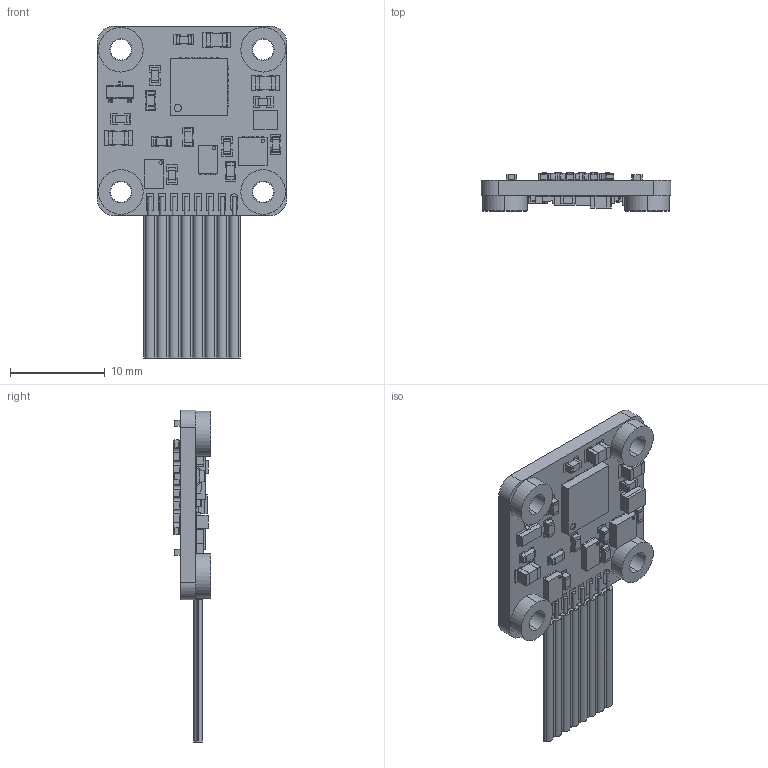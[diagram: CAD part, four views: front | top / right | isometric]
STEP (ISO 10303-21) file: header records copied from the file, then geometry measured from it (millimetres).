
FILE_DESCRIPTION (( 'STEP AP214' ), '1' );
FILE_NAME ('010482-EP210-220A_Bloc_422-SE.STEP', '2019-11-05T16:39:21', ( '' ), ( '' ), 'SwSTEP 2.0', 'SolidWorks 2018', '' );
FILE_SCHEMA (( 'AUTOMOTIVE_DESIGN' ));
Length unit declared in the file: millimetre
Products named in the file (21): QFN28_6x6_065_D‚faut; c0805_HYPAD_D‚faut; Cable_plat_diff_1,27:8x15mmx2mm; PinsArrayLR.stp; 010482-EP210-220A_Bloc_422-SE; DFN08_3x2_D‚faut; DFN10_3x3_D‚faut; dsPIC33EV128GM102-I_MM.stp; Entretoise_9913-062_D‚faut; r0603_HYPAD_D‚faut; Body.stp; sot23_DＧaut; c0603_HYPAD_D‚faut; c0402_HYPAD_Flex; ThermalPin.stp; 010482-M200A_bloc_absolu_D‚faut; PinsArrayTB.stp; vls252012hbx-1; 010482-P001A-Encodeur_PCB_D‚faut; 010482-PM001A-Encodeur.SLDPRT_D‚faut; 010482-P001A-Globtop_D‚faut
Assembly tree (43 placements, depth 4):
  010482-EP210-220A_Bloc_422-SE
    010482-M200A_bloc_absolu_D‚faut
    c0402_HYPAD_Flex  x8
    010482-PM001A-Encodeur.SLDPRT_D‚faut
      010482-P001A-Encodeur_PCB_D‚faut
      010482-P001A-Globtop_D‚faut  x2
    c0805_HYPAD_D‚faut  x3
    c0603_HYPAD_D‚faut  x6
    r0603_HYPAD_D‚faut  x5
    vls252012hbx-1
    sot23_DＧaut
    QFN28_6x6_065_D‚faut
      dsPIC33EV128GM102-I_MM.stp
        Body.stp
        ThermalPin.stp
        PinsArrayLR.stp
        PinsArrayTB.stp
    DFN10_3x3_D‚faut
    DFN08_3x2_D‚faut  x2
    Entretoise_9913-062_D‚faut  x4
    Cable_plat_diff_1,27:8x15mmx2mm
Bounding box: 20 x 3.98 x 35 mm (x, y, z)
Volume: 898.4 mm3; surface area: 2281.3 mm2
Topology: 74 solids, 74 shells, 2129 faces, 5199 edges, 3210 vertices
Faces by surface type: plane 1369, cylinder 582, sphere 136, bspline 34, cone 8
Entity records: 48744 total; most frequent: CARTESIAN_POINT 9014, DIRECTION 6174, ORIENTED_EDGE 6156, EDGE_CURVE 3078, VECTOR 2326, LINE 2326, VERTEX_POINT 2004, AXIS2_PLACEMENT_3D 1924
